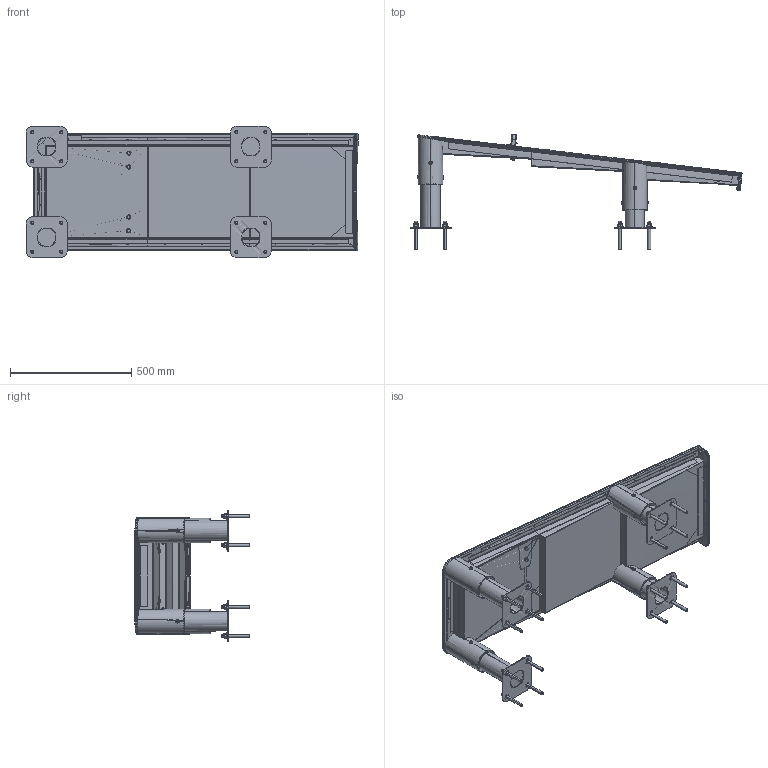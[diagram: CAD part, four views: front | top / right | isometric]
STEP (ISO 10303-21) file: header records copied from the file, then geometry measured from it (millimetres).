
FILE_DESCRIPTION (( 'STEP AP214' ), '1' );
FILE_NAME ('570.204.010.011 - Waterfall FA.STEP', '2021-03-26T12:15:33', ( '' ), ( '' ), 'SwSTEP 2.0', 'SolidWorks 2018', '' );
FILE_SCHEMA (( 'AUTOMOTIVE_DESIGN' ));
Length unit declared in the file: millimetre
Products named in the file (1): 570.204.010.011 - Waterfall FA
Bounding box: 1371.33 x 475.05 x 544.39 mm (x, y, z)
Surface area: 3361009.5 mm2 (no closed solid volume)
Topology: 0 solids, 144 shells, 1468 faces, 4168 edges, 2562 vertices
Faces by surface type: cylinder 527, plane 465, torus 141, cone 127, bspline 119, sphere 89
Entity records: 79493 total; most frequent: CARTESIAN_POINT 49704, ORIENTED_EDGE 6794, EDGE_CURVE 4016, B_SPLINE_CURVE_WITH_KNOTS 3709, DIRECTION 2732, VERTEX_POINT 2559, EDGE_LOOP 1661, FACE_OUTER_BOUND 1470
